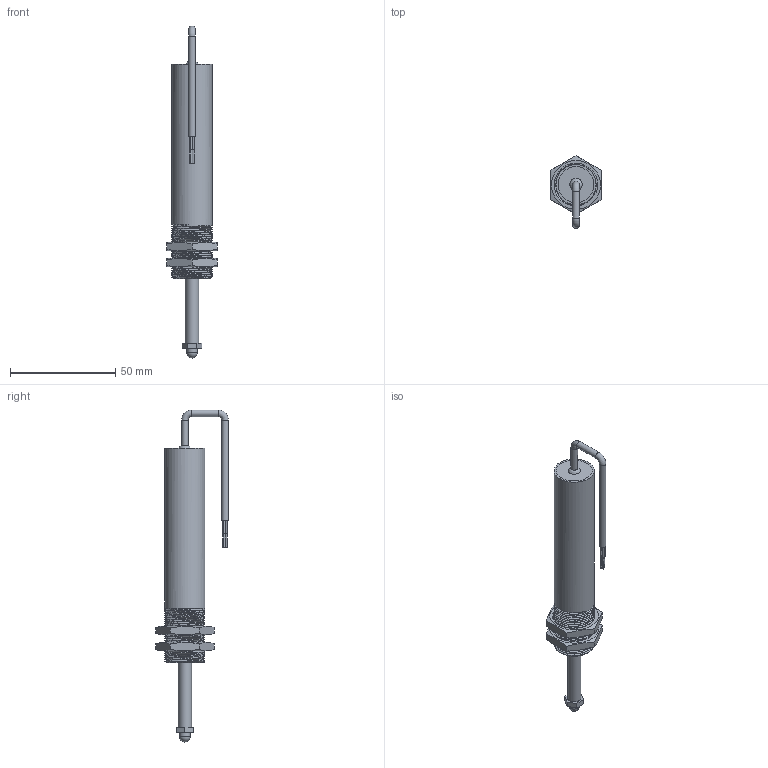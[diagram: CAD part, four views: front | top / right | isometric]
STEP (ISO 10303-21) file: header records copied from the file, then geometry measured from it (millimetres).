
FILE_DESCRIPTION(/* description */ (''),/* implementation_level */ '2;1');
FILE_NAME(/* name */ 'ILPS-18S-025-A-00-YY-Z.stp',/* time_stamp */ '2026-01-27T15:18:02-05:00',/* author */ ('wingm'),/* organization */ (''),/* preprocessor_version */ 'ST-DEVELOPER v20.1',/* originating_system */ 'Autodesk Inventor 2026',/* authorisation */ '');
FILE_SCHEMA (('AUTOMOTIVE_DESIGN { 1 0 10303 214 3 1 1 }'));
Length unit declared in the file: inch
Products named in the file (9): Assembly1; Body; End Cap; Shaft; Lining; Hex Nut; End Cap_1; #8552; ILPS-19-XXX-01 Cable
Assembly tree (9 placements, depth 2):
  Assembly1
    Body
    End Cap
    Shaft
    Lining
    Hex Nut  x2
    End Cap_1
    #8552
    ILPS-19-XXX-01 Cable
Bounding box: 24 x 34.49 x 157.41 mm (x, y, z)
Volume: 11758.2 mm3; surface area: 23584.5 mm2
Topology: 11 solids, 11 shells, 133 faces, 287 edges, 186 vertices
Faces by surface type: cylinder 59, plane 50, bspline 11, cone 10, torus 2, sphere 1
Full cylindrical faces by diameter (mm): 0.635 x4, 0.762 x4, 1.905 x1, 2.845 x3, 3.175 x5, 5.08 x1, 6.35 x2, 6.858 x2, 17.069 x3, 19.05 x29
Entity records: 8535 total; most frequent: CARTESIAN_POINT 5746, ORIENTED_EDGE 478, DIRECTION 468, EDGE_CURVE 239, AXIS2_PLACEMENT_3D 191, VERTEX_POINT 156, EDGE_LOOP 137, FACE_OUTER_BOUND 114
